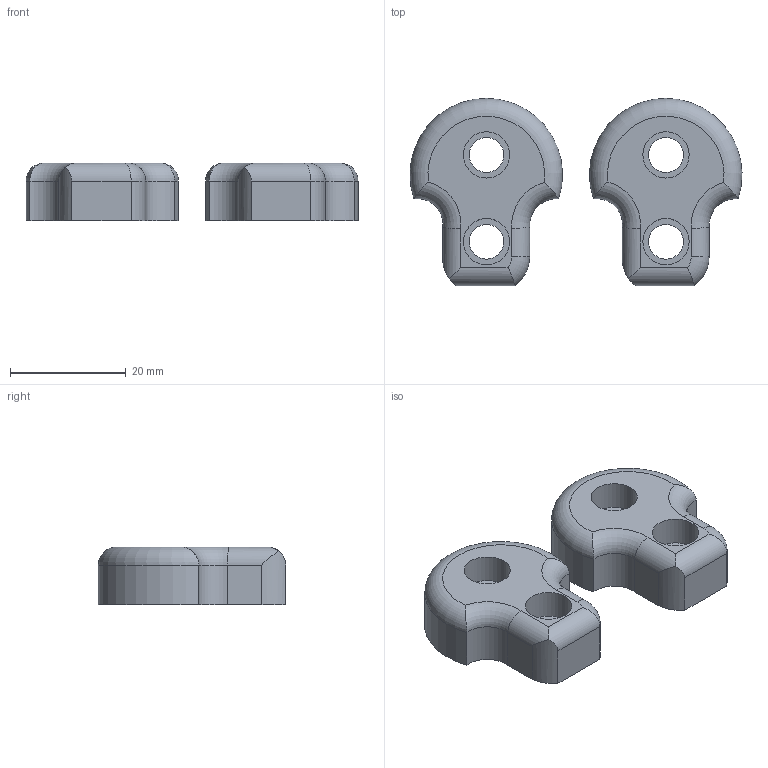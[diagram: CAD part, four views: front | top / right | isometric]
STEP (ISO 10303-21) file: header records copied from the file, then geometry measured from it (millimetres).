
FILE_DESCRIPTION(/* description */ (''),/* implementation_level */ '2;1');
FILE_NAME(/* name */ 'Mushrrom2feet.step',/* time_stamp */ '2023-04-22T15:56:21-04:00',/* author */ (''),/* organization */ (''),/* preprocessor_version */ 'ST-DEVELOPER v19.2',/* originating_system */ 'Autodesk Translation Framework v12.4.0.73',/* authorisation */ '');
FILE_SCHEMA (('AUTOMOTIVE_DESIGN { 1 0 10303 214 3 1 1 }'));
Length unit declared in the file: millimetre
Products named in the file (1): Untitled
Bounding box: 57.35 x 32.34 x 10 mm (x, y, z)
Volume: 10194.2 mm3; surface area: 4773.6 mm2
Topology: 2 solids, 2 shells, 46 faces, 102 edges, 64 vertices
Faces by surface type: cylinder 24, plane 14, torus 8
Full cylindrical faces by diameter (mm): 6 x4, 8 x4
Entity records: 1462 total; most frequent: CARTESIAN_POINT 379, DIRECTION 228, ORIENTED_EDGE 204, EDGE_CURVE 102, AXIS2_PLACEMENT_3D 93, VERTEX_POINT 64, EDGE_LOOP 58, FACE_OUTER_BOUND 46
